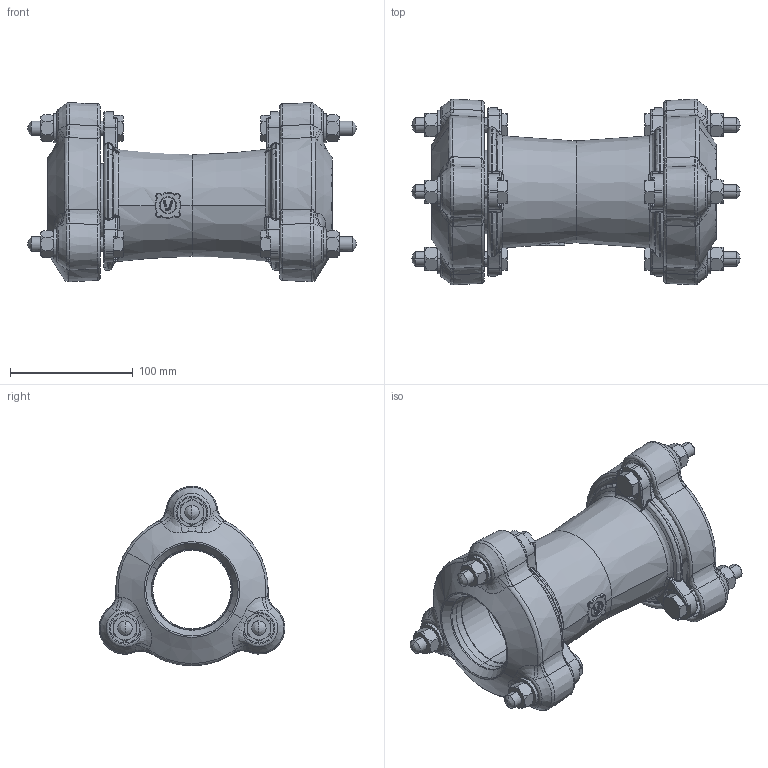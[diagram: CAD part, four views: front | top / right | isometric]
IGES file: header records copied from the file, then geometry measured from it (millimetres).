
Global section: file name: No Iges File Name specified; native system: AutoDesk Inventor R12.0; preprocessor: AutoDesk Inventor Iges Exporter R12.0; date: 20120522.122539; units: millimetre
Bounding box: 268 x 151.42 x 146.15 mm (x, y, z)
Volume: 741513.4 mm3; surface area: 263607.6 mm2
Topology: 1 solids, 1 shells, 1221 faces, 3276 edges, 2048 vertices
Faces by surface type: bspline 280, plane 271, revolution 179, cone 171, torus 154, cylinder 138, sphere 28
